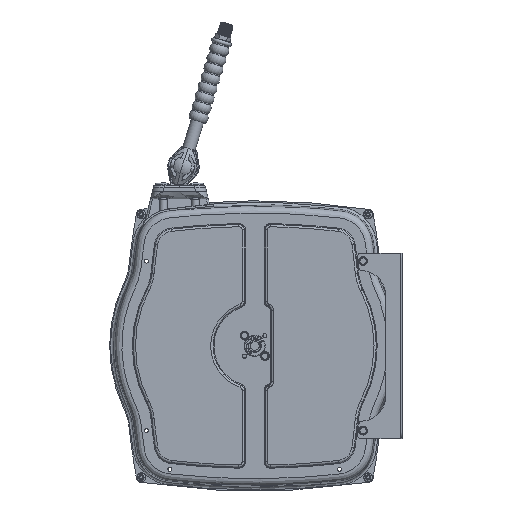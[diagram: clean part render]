
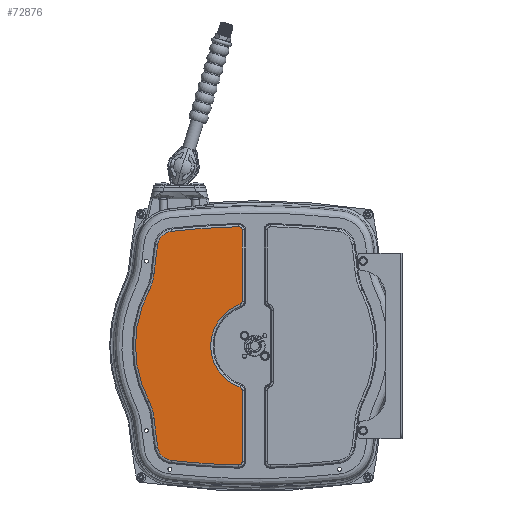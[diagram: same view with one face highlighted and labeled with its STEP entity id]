
A CAD part, left-side view. The second image highlights one B-rep face of the part: STEP entity #72876.
In plain terms, the highlighted planar face has unit normal (-1, 0, 0).
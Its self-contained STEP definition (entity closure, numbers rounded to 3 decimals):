
#180 = CARTESIAN_POINT ( 'NONE',  ( -61.5, -999.059, 0. ) ) ;
#426 = CARTESIAN_POINT ( 'NONE',  ( -61.5, 154.69, 161.009 ) ) ;
#1123 = CARTESIAN_POINT ( 'NONE',  ( -61.5, 160.147, -115.331 ) ) ;
#2764 = EDGE_CURVE ( 'NONE', #10956, #55064, #74552, .T. ) ;
#2865 = CARTESIAN_POINT ( 'NONE',  ( -61.5, 25.106, 189.658 ) ) ;
#3099 = AXIS2_PLACEMENT_3D ( 'NONE', #11106, #58071, #28120 ) ;
#3217 = AXIS2_PLACEMENT_3D ( 'NONE', #51865, #45709, #51627 ) ;
#3925 = DIRECTION ( 'NONE',  ( 0., 0., -1. ) ) ;
#4471 = PLANE ( 'NONE',  #3217 ) ;
#5975 = VERTEX_POINT ( 'NONE', #15087 ) ;
#6052 = FACE_OUTER_BOUND ( 'NONE', #44283, .T. ) ;
#6273 = CIRCLE ( 'NONE', #13454, 24.929 ) ;
#6622 = VERTEX_POINT ( 'NONE', #17735 ) ;
#7000 = EDGE_CURVE ( 'NONE', #25077, #55409, #9844, .T. ) ;
#7201 = CIRCLE ( 'NONE', #40092, 1164.929 ) ;
#7745 = VERTEX_POINT ( 'NONE', #51569 ) ;
#7855 = DIRECTION ( 'NONE',  ( 0., 0., -1. ) ) ;
#7968 = LINE ( 'NONE', #35210, #31003 ) ;
#8730 = AXIS2_PLACEMENT_3D ( 'NONE', #48214, #18808, #19071 ) ;
#9844 = CIRCLE ( 'NONE', #36963, 4.929 ) ;
#10956 = VERTEX_POINT ( 'NONE', #20162 ) ;
#11106 = CARTESIAN_POINT ( 'NONE',  ( -61.5, 234.849, -122.763 ) ) ;
#11349 = DIRECTION ( 'NONE',  ( 0., 0., -1. ) ) ;
#11762 = DIRECTION ( 'NONE',  ( 0., 0., 1. ) ) ;
#11974 = AXIS2_PLACEMENT_3D ( 'NONE', #22701, #21971, #28875 ) ;
#13204 = AXIS2_PLACEMENT_3D ( 'NONE', #35069, #64732, #11349 ) ;
#13266 = ORIENTED_EDGE ( 'NONE', *, *, #2764, .T. ) ;
#13454 = AXIS2_PLACEMENT_3D ( 'NONE', #25078, #31032, #7855 ) ;
#13488 = CARTESIAN_POINT ( 'NONE',  ( -61.5, 25., 184.731 ) ) ;
#13684 = CARTESIAN_POINT ( 'NONE',  ( -61.5, 20.071, -184.731 ) ) ;
#14113 = ORIENTED_EDGE ( 'NONE', *, *, #37035, .T. ) ;
#14661 = CARTESIAN_POINT ( 'NONE',  ( -61.5, 25., 70.711 ) ) ;
#15087 = CARTESIAN_POINT ( 'NONE',  ( -61.5, 168.32, -87.986 ) ) ;
#15154 = DIRECTION ( 'NONE',  ( -1., 0., 0. ) ) ;
#15848 = CARTESIAN_POINT ( 'NONE',  ( -61.5, 23.357, 66.064 ) ) ;
#16502 = AXIS2_PLACEMENT_3D ( 'NONE', #23725, #65272, #64735 ) ;
#17735 = CARTESIAN_POINT ( 'NONE',  ( -61.5, 168.32, 87.986 ) ) ;
#17770 = CIRCLE ( 'NONE', #32544, 75.071 ) ;
#18266 = EDGE_CURVE ( 'NONE', #55409, #10956, #7968, .T. ) ;
#18808 = DIRECTION ( 'NONE',  ( -1., 0., 0. ) ) ;
#19071 = DIRECTION ( 'NONE',  ( 0., 0., -1. ) ) ;
#19115 = VECTOR ( 'NONE', #48120, 1000. ) ;
#20162 = CARTESIAN_POINT ( 'NONE',  ( -61.5, 20.071, 184.731 ) ) ;
#20273 = DIRECTION ( 'NONE',  ( 0., 0., -1. ) ) ;
#20513 = CARTESIAN_POINT ( 'NONE',  ( -61.5, 234.849, 122.763 ) ) ;
#21086 = EDGE_CURVE ( 'NONE', #55064, #56599, #25625, .T. ) ;
#21488 = DIRECTION ( 'NONE',  ( -1., 0., 0. ) ) ;
#21797 = EDGE_CURVE ( 'NONE', #50962, #46584, #34786, .T. ) ;
#21971 = DIRECTION ( 'NONE',  ( -1., 0., 0. ) ) ;
#22701 = CARTESIAN_POINT ( 'NONE',  ( -61.5, 0., 0. ) ) ;
#22820 = VERTEX_POINT ( 'NONE', #56083 ) ;
#23725 = CARTESIAN_POINT ( 'NONE',  ( -61.5, 0., 0. ) ) ;
#23868 = EDGE_CURVE ( 'NONE', #59572, #62440, #47600, .T. ) ;
#25077 = VERTEX_POINT ( 'NONE', #15848 ) ;
#25078 = CARTESIAN_POINT ( 'NONE',  ( -61.5, 130., -157.563 ) ) ;
#25625 = CIRCLE ( 'NONE', #8730, 1164.929 ) ;
#25962 = DIRECTION ( 'NONE',  ( 0., 0., -1. ) ) ;
#26178 = DIRECTION ( 'NONE',  ( 1., 0., 0. ) ) ;
#27336 = ORIENTED_EDGE ( 'NONE', *, *, #23868, .T. ) ;
#27852 = AXIS2_PLACEMENT_3D ( 'NONE', #13488, #32049, #49336 ) ;
#28058 = ORIENTED_EDGE ( 'NONE', *, *, #57374, .T. ) ;
#28120 = DIRECTION ( 'NONE',  ( 0., 0., -1. ) ) ;
#28875 = DIRECTION ( 'NONE',  ( 0., 0., -1. ) ) ;
#29557 = CARTESIAN_POINT ( 'NONE',  ( -61.5, 20.071, 70.711 ) ) ;
#30068 = DIRECTION ( 'NONE',  ( -1., 0., 0. ) ) ;
#30284 = CARTESIAN_POINT ( 'NONE',  ( -61.5, 25., -70.711 ) ) ;
#31003 = VECTOR ( 'NONE', #11762, 1000. ) ;
#31032 = DIRECTION ( 'NONE',  ( -1., 0., 0. ) ) ;
#31412 = AXIS2_PLACEMENT_3D ( 'NONE', #68731, #21488, #74683 ) ;
#31766 = ORIENTED_EDGE ( 'NONE', *, *, #53253, .T. ) ;
#31778 = VERTEX_POINT ( 'NONE', #426 ) ;
#32049 = DIRECTION ( 'NONE',  ( -1., 0., 0. ) ) ;
#32544 = AXIS2_PLACEMENT_3D ( 'NONE', #20513, #26178, #20273 ) ;
#33039 = CARTESIAN_POINT ( 'NONE',  ( -61.5, 25., -184.731 ) ) ;
#33430 = VERTEX_POINT ( 'NONE', #68799 ) ;
#33468 = CIRCLE ( 'NONE', #3099, 75.071 ) ;
#33608 = CARTESIAN_POINT ( 'NONE',  ( -61.5, 132.843, -182.33 ) ) ;
#34100 = EDGE_CURVE ( 'NONE', #5975, #65834, #33468, .T. ) ;
#34786 = LINE ( 'NONE', #53286, #19115 ) ;
#34958 = ORIENTED_EDGE ( 'NONE', *, *, #69057, .T. ) ;
#35069 = CARTESIAN_POINT ( 'NONE',  ( -61.5, 0., 975. ) ) ;
#35210 = CARTESIAN_POINT ( 'NONE',  ( -61.5, 20.071, 250. ) ) ;
#35336 = ORIENTED_EDGE ( 'NONE', *, *, #43374, .T. ) ;
#35762 = DIRECTION ( 'NONE',  ( 0., 0., -1. ) ) ;
#36963 = AXIS2_PLACEMENT_3D ( 'NONE', #14661, #15154, #25962 ) ;
#37035 = EDGE_CURVE ( 'NONE', #22820, #25077, #70215, .T. ) ;
#37401 = CARTESIAN_POINT ( 'NONE',  ( -61.5, 20.071, -70.711 ) ) ;
#39248 = DIRECTION ( 'NONE',  ( -1., 0., 0. ) ) ;
#40088 = CIRCLE ( 'NONE', #31412, 1164.929 ) ;
#40092 = AXIS2_PLACEMENT_3D ( 'NONE', #180, #30068, #35762 ) ;
#42195 = DIRECTION ( 'NONE',  ( -1., 0., 0. ) ) ;
#43374 = EDGE_CURVE ( 'NONE', #62440, #50962, #66729, .T. ) ;
#44283 = EDGE_LOOP ( 'NONE', ( #34958, #27336, #35336, #59817, #31766, #14113, #48570, #69651, #13266, #74420, #48720, #28058, #64015, #72529, #67123, #72721 ) ) ;
#45111 = CARTESIAN_POINT ( 'NONE',  ( -61.5, 130., 157.563 ) ) ;
#45709 = DIRECTION ( 'NONE',  ( -1., 0., 0. ) ) ;
#45980 = EDGE_CURVE ( 'NONE', #56599, #31778, #50007, .T. ) ;
#46584 = VERTEX_POINT ( 'NONE', #37401 ) ;
#47600 = CIRCLE ( 'NONE', #13204, 1164.929 ) ;
#48120 = DIRECTION ( 'NONE',  ( 0., 0., 1. ) ) ;
#48214 = CARTESIAN_POINT ( 'NONE',  ( -61.5, 0., -975. ) ) ;
#48570 = ORIENTED_EDGE ( 'NONE', *, *, #7000, .T. ) ;
#48720 = ORIENTED_EDGE ( 'NONE', *, *, #45980, .T. ) ;
#49336 = DIRECTION ( 'NONE',  ( 0., 0., -1. ) ) ;
#50007 = CIRCLE ( 'NONE', #61733, 24.929 ) ;
#50962 = VERTEX_POINT ( 'NONE', #13684 ) ;
#51296 = AXIS2_PLACEMENT_3D ( 'NONE', #33039, #39248, #3925 ) ;
#51367 = EDGE_CURVE ( 'NONE', #65834, #7745, #7201, .T. ) ;
#51569 = CARTESIAN_POINT ( 'NONE',  ( -61.5, 154.69, -161.009 ) ) ;
#51627 = DIRECTION ( 'NONE',  ( 0., 0., -1. ) ) ;
#51865 = CARTESIAN_POINT ( 'NONE',  ( -61.5, 250., 250. ) ) ;
#53253 = EDGE_CURVE ( 'NONE', #46584, #22820, #70765, .T. ) ;
#53286 = CARTESIAN_POINT ( 'NONE',  ( -61.5, 20.071, 250. ) ) ;
#54210 = CIRCLE ( 'NONE', #11974, 189.929 ) ;
#55064 = VERTEX_POINT ( 'NONE', #2865 ) ;
#55409 = VERTEX_POINT ( 'NONE', #29557 ) ;
#56083 = CARTESIAN_POINT ( 'NONE',  ( -61.5, 23.357, -66.064 ) ) ;
#56599 = VERTEX_POINT ( 'NONE', #58980 ) ;
#57374 = EDGE_CURVE ( 'NONE', #31778, #33430, #40088, .T. ) ;
#58071 = DIRECTION ( 'NONE',  ( 1., 0., 0. ) ) ;
#58980 = CARTESIAN_POINT ( 'NONE',  ( -61.5, 132.843, 182.33 ) ) ;
#59572 = VERTEX_POINT ( 'NONE', #33608 ) ;
#59817 = ORIENTED_EDGE ( 'NONE', *, *, #21797, .T. ) ;
#61733 = AXIS2_PLACEMENT_3D ( 'NONE', #45111, #74298, #69113 ) ;
#62238 = EDGE_CURVE ( 'NONE', #33430, #6622, #17770, .T. ) ;
#62440 = VERTEX_POINT ( 'NONE', #74952 ) ;
#64015 = ORIENTED_EDGE ( 'NONE', *, *, #62238, .T. ) ;
#64732 = DIRECTION ( 'NONE',  ( -1., 0., 0. ) ) ;
#64735 = DIRECTION ( 'NONE',  ( 0., 0., -1. ) ) ;
#65272 = DIRECTION ( 'NONE',  ( 1., 0., 0. ) ) ;
#65834 = VERTEX_POINT ( 'NONE', #1123 ) ;
#66729 = CIRCLE ( 'NONE', #51296, 4.929 ) ;
#67123 = ORIENTED_EDGE ( 'NONE', *, *, #34100, .T. ) ;
#68731 = CARTESIAN_POINT ( 'NONE',  ( -61.5, -999.059, 0. ) ) ;
#68799 = CARTESIAN_POINT ( 'NONE',  ( -61.5, 160.147, 115.331 ) ) ;
#69057 = EDGE_CURVE ( 'NONE', #7745, #59572, #6273, .T. ) ;
#69113 = DIRECTION ( 'NONE',  ( 0., 0., -1. ) ) ;
#69352 = EDGE_CURVE ( 'NONE', #6622, #5975, #54210, .T. ) ;
#69651 = ORIENTED_EDGE ( 'NONE', *, *, #18266, .T. ) ;
#70215 = CIRCLE ( 'NONE', #16502, 70.071 ) ;
#70765 = CIRCLE ( 'NONE', #72823, 4.929 ) ;
#71339 = DIRECTION ( 'NONE',  ( 0., 0., -1. ) ) ;
#72529 = ORIENTED_EDGE ( 'NONE', *, *, #69352, .T. ) ;
#72721 = ORIENTED_EDGE ( 'NONE', *, *, #51367, .T. ) ;
#72823 = AXIS2_PLACEMENT_3D ( 'NONE', #30284, #42195, #71339 ) ;
#72876 = ADVANCED_FACE ( 'NONE', ( #6052 ), #4471, .T. ) ;
#74298 = DIRECTION ( 'NONE',  ( -1., 0., 0. ) ) ;
#74420 = ORIENTED_EDGE ( 'NONE', *, *, #21086, .T. ) ;
#74552 = CIRCLE ( 'NONE', #27852, 4.929 ) ;
#74683 = DIRECTION ( 'NONE',  ( 0., 0., -1. ) ) ;
#74952 = CARTESIAN_POINT ( 'NONE',  ( -61.5, 25.106, -189.658 ) ) ;
